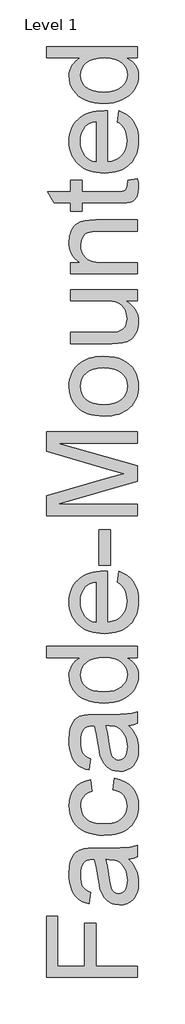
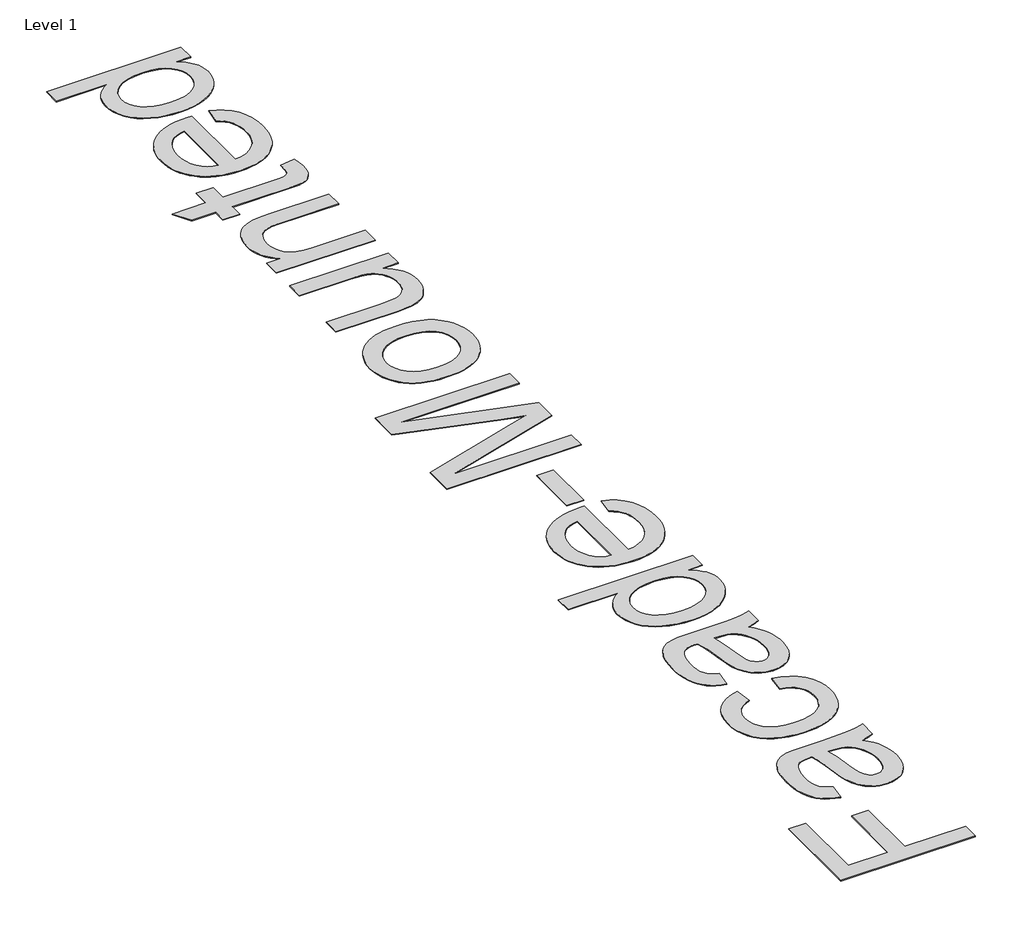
# One storey, part 10 of 69: 1 proxy.
"""IFC4 building model written with IfcOpenShell, lengths in millimetres."""

from ifc_helpers import new_model, si_unit, origin, origin_with_axes, place, context, project, spatial, polyline, outline, extrude, element, save

model = new_model("IFC4")

# Units and contexts
model_context = context("Model", 3, world=origin())
ifc_project = project(units=[si_unit("LENGTHUNIT", "METRE", prefix="MILLI")], contexts=[model_context])

# Site, building, storey
site = spatial("IfcSite", under=ifc_project)
building = spatial("IfcBuilding", under=site)
storey = spatial("IfcBuildingStorey", under=building, Name="Level 1", Elevation=0.0)

# Proxy
placement = place(None, origin())
element("IfcBuildingElementProxy", 1, Name="1000mm Arial", ObjectType="1000mm Arial", at=placement, inside=storey, context=model_context, shape_type="SweptSolid", body=[
    extrude(outline(polyline([(-28268.5943946, -25723.1471203), (-29273.1574961, -25723.1471203), (-29273.1574961, -25048.2062865), (-29147.5871085, -25048.2062865), (-29147.5871085, -25597.5767326), (-28849.3574377, -25597.5767326), (-28849.3574377, -25126.6877788), (-28723.78705, -25126.6877788), (-28723.78705, -25597.5767326), (-28268.5943946, -25597.5767326), (-28268.5943946, -25723.1471203)])), origin_with_axes(), (0.0, 0.0, 1.0), 5.0),
    extrude(outline(polyline([(-28362.7721854, -24420.3543481), (-28334.8284822, -24450.1297971), (-28311.3300198, -24480.3497701), (-28292.2767981, -24511.0142673), (-28277.6688172, -24542.1232885), (-28266.8316268, -24574.0293874), (-28259.0907764, -24607.0851175), (-28254.4462662, -24641.2904788), (-28252.8980962, -24676.6454714), (-28256.6229014, -24732.5558704), (-28267.797317, -24781.5838105), (-28286.421343, -24823.7292916), (-28312.4949794, -24858.9923137), (-28344.3627572, -24886.8363822), (-28380.3692075, -24906.7250025), (-28420.5143302, -24918.6581748), (-28464.7981254, -24922.6358988), (-28516.8534277, -24916.6271596), (-28541.0876542, -24909.1162355), (-28564.1262641, -24898.6009418), (-28604.5932836, -24870.7951943), (-28636.2311352, -24835.447866), (-28660.1434648, -24793.9078573), (-28677.4339186, -24747.5240691), (-28687.0601642, -24702.3358974), (-28696.3185277, -24638.8762532), (-28716.1841554, -24510.4854369), (-28727.4045563, -24460.913338), (-28739.4833485, -24421.0901121), (-28767.4423801, -24420.3543481), (-28797.8846152, -24422.5156548), (-28823.4830707, -24428.999575), (-28844.2377466, -24439.8061086), (-28860.1486429, -24454.9352556), (-28876.0288823, -24481.0855341), (-28887.3719105, -24512.9379835), (-28894.1777274, -24550.4926039), (-28896.4463331, -24593.7493951), (-28894.9364841, -24633.9711599), (-28890.406937, -24668.5520675), (-28882.8576919, -24697.4921178), (-28872.2887487, -24720.7913108), (-28857.872373, -24739.936503), (-28838.7808303, -24756.4145507), (-28815.0141206, -24770.2254539), (-28786.5722439, -24781.3692127), (-28802.2685423, -24906.9396004), (-28838.4436052, -24897.3823327), (-28870.9398481, -24885.1425921), (-28899.757271, -24870.2203787), (-28924.895874, -24852.6156924), (-28946.8614948, -24831.5697766), (-28966.1599712, -24806.3238747), (-28982.791303, -24776.8779867), (-28996.7554904, -24743.2321125), (-29007.8072787, -24706.0683668), (-29015.7014132, -24666.068864), (-29020.4378939, -24623.2336042), (-29022.0167208, -24577.5625873), (-29016.4371772, -24492.673817), (-29009.4627477, -24456.8283151), (-28999.6985464, -24425.3820687), (-28974.5292866, -24374.6450102), (-28959.8063425, -24355.093615), (-28943.6578558, -24339.4203091), (-28905.4900988, -24316.0598024), (-28858.4318602, -24300.915327), (-28815.0217848, -24296.316802), (-28748.557771, -24294.7839604), (-28592.3305504, -24294.7839604), (-28456.244869, -24293.1898051), (-28374.1765273, -24288.4073391), (-28320.2511581, -24278.9650346), (-28268.5943946, -24263.3913635), (-28268.5943946, -24388.9617512), (-28312.2497247, -24409.0726336), (-28362.7721854, -24420.3543481)]), holes=[polyline([(-28613.9129608, -24420.3543481), (-28593.0050007, -24504.7219523), (-28575.4079786, -24622.9347001), (-28565.7817331, -24688.0804701), (-28555.0518416, -24730.9693793), (-28541.1336394, -24759.0816951), (-28521.942462, -24779.8976847), (-28498.9498373, -24792.7735545), (-28473.6272933, -24797.0655111), (-28454.1142191, -24794.7279276), (-28436.2872708, -24787.7151771), (-28420.1464482, -24776.0272595), (-28405.6917515, -24759.664175), (-28393.7815719, -24738.7792075), (-28385.2743008, -24713.5256414), (-28380.1699381, -24683.9034766), (-28378.4684839, -24649.9127131), (-28380.3462149, -24615.2091782), (-28385.9794079, -24582.4676806), (-28395.368063, -24551.6882204), (-28408.5121801, -24522.8707974), (-28424.3234417, -24496.8738031), (-28441.7135302, -24474.5556287), (-28460.6824456, -24455.9162743), (-28481.2301879, -24440.9557398), (-28499.6242876, -24432.2645277), (-28521.942462, -24426.056519), (-28578.3510346, -24421.0901121), (-28613.9129608, -24420.3543481)])]), origin_with_axes(), (0.0, 0.0, 1.0), 5.0),
    extrude(outline(polyline([(-28535.4314685, -23651.2357235), (-28519.73517, -23525.6653358), (-28460.4831762, -23539.3229549), (-28408.0523277, -23560.675439), (-28362.4426245, -23589.7227882), (-28323.6540666, -23626.4650025), (-28292.6983295, -23669.3539118), (-28270.5870888, -23716.841346), (-28257.3203443, -23768.9273051), (-28252.8980962, -23825.6117892), (-28254.4405181, -23861.7351187), (-28259.0677838, -23896.0381987), (-28266.7798933, -23928.5210292), (-28277.5768467, -23959.1836103), (-28291.4586439, -23988.0259419), (-28308.4252848, -24015.0480241), (-28328.4767696, -24040.2498568), (-28351.6130982, -24063.6314401), (-28377.6311691, -24084.6984325), (-28406.3278808, -24102.9564925), (-28437.7032333, -24118.4056203), (-28471.7572265, -24131.0458157), (-28508.4898605, -24140.8770788), (-28547.9011353, -24147.8994096), (-28634.7596072, -24153.5172742), (-28692.4940878, -24151.1183771), (-28746.5037632, -24143.9216855), (-28796.7886334, -24131.9271997), (-28843.3486984, -24115.1349194), (-28885.2489249, -24093.4298817), (-28921.5542793, -24066.6971234), (-28952.2647616, -24034.9366445), (-28977.380372, -23998.1484449), (-28996.9087746, -23957.995658), (-29010.8576336, -23916.1414169), (-29019.226949, -23872.5857215), (-29022.0167208, -23827.3285719), (-29018.1846167, -23771.6174422), (-29006.6883043, -23721.2252731), (-28987.5277837, -23676.1520645), (-28960.7030549, -23636.3978164), (-28926.8272545, -23602.6369791), (-28886.5135192, -23575.544003), (-28839.761849, -23555.118888), (-28786.5722439, -23541.3616343), (-28770.8759454, -23666.932022), (-28800.2068703, -23676.7345443), (-28825.6597058, -23689.7100488), (-28847.234452, -23705.8585356), (-28864.9311088, -23725.1800045), (-28878.7190194, -23747.1839464), (-28888.567527, -23771.3798518), (-28894.4766316, -23797.7677207), (-28896.4463331, -23826.3475532), (-28892.5682437, -23869.0142004), (-28880.9339756, -23907.49619), (-28861.5435288, -23941.7935218), (-28834.3969032, -23971.906196), (-28798.8656339, -23996.4239981), (-28754.3212556, -24013.9367139), (-28700.7637685, -24024.4443434), (-28638.1931725, -24027.9468866), (-28574.6798788, -24024.5209855), (-28520.5015908, -24014.2432822), (-28475.6583085, -23997.1137768), (-28440.1500317, -23973.1324693), (-28413.1643545, -23943.6176034), (-28393.8888708, -23909.8874229), (-28382.3235806, -23871.941928), (-28378.4684839, -23829.7811185), (-28380.8750453, -23795.8056834), (-28388.0947294, -23764.7579758), (-28400.1275363, -23736.6379958), (-28416.973466, -23711.4457434), (-28438.8164595, -23689.8863256), (-28465.8404577, -23672.6648497), (-28498.0454607, -23659.7813157), (-28535.4314685, -23651.2357235)])), origin_with_axes(), (0.0, 0.0, 1.0), 5.0),
    extrude(outline(polyline([(-28362.7721854, -22944.9022928), (-28334.8284822, -22974.6777417), (-28311.3300198, -23004.8977148), (-28292.2767981, -23035.5622119), (-28277.6688172, -23066.6712332), (-28266.8316268, -23098.577332), (-28259.0907764, -23131.6330621), (-28254.4462662, -23165.8384235), (-28252.8980962, -23201.1934161), (-28256.6229014, -23257.1038151), (-28267.797317, -23306.1317552), (-28286.421343, -23348.2772363), (-28312.4949794, -23383.5402583), (-28344.3627572, -23411.3843268), (-28380.3692075, -23431.2729472), (-28420.5143302, -23443.2061194), (-28464.7981254, -23447.1838435), (-28516.8534277, -23441.1751042), (-28541.0876542, -23433.6641802), (-28564.1262641, -23423.1488865), (-28604.5932836, -23395.343139), (-28636.2311352, -23359.9958106), (-28660.1434648, -23318.455802), (-28677.4339186, -23272.0720138), (-28687.0601642, -23226.8838421), (-28696.3185277, -23163.4241979), (-28716.1841554, -23035.0333816), (-28727.4045563, -22985.4612827), (-28739.4833485, -22945.6380567), (-28767.4423801, -22944.9022928), (-28797.8846152, -22947.0635995), (-28823.4830707, -22953.5475196), (-28844.2377466, -22964.3540532), (-28860.1486429, -22979.4832003), (-28876.0288823, -23005.6334788), (-28887.3719105, -23037.4859282), (-28894.1777274, -23075.0405485), (-28896.4463331, -23118.2973398), (-28894.9364841, -23158.5191046), (-28890.406937, -23193.1000122), (-28882.8576919, -23222.0400625), (-28872.2887487, -23245.3392555), (-28857.872373, -23264.4844476), (-28838.7808303, -23280.9624953), (-28815.0141206, -23294.7733986), (-28786.5722439, -23305.9171574), (-28802.2685423, -23431.487545), (-28838.4436052, -23421.9302774), (-28870.9398481, -23409.6905368), (-28899.757271, -23394.7683234), (-28924.895874, -23377.1636371), (-28946.8614948, -23356.1177213), (-28966.1599712, -23330.8718194), (-28982.791303, -23301.4259313), (-28996.7554904, -23267.7800572), (-29007.8072787, -23230.6163115), (-29015.7014132, -23190.6168087), (-29020.4378939, -23147.7815489), (-29022.0167208, -23102.110532), (-29016.4371772, -23017.2217616), (-29009.4627477, -22981.3762597), (-28999.6985464, -22949.9300134), (-28974.5292866, -22899.1929549), (-28959.8063425, -22879.6415597), (-28943.6578558, -22863.9682538), (-28905.4900988, -22840.6077471), (-28858.4318602, -22825.4632717), (-28815.0217848, -22820.8647467), (-28748.557771, -22819.3319051), (-28592.3305504, -22819.3319051), (-28456.244869, -22817.7377498), (-28374.1765273, -22812.9552838), (-28320.2511581, -22803.5129793), (-28268.5943946, -22787.9393081), (-28268.5943946, -22913.5096958), (-28312.2497247, -22933.6205782), (-28362.7721854, -22944.9022928)]), holes=[polyline([(-28613.9129608, -22944.9022928), (-28593.0050007, -23029.269897), (-28575.4079786, -23147.4826448), (-28565.7817331, -23212.6284147), (-28555.0518416, -23255.517324), (-28541.1336394, -23283.6296398), (-28521.942462, -23304.4456294), (-28498.9498373, -23317.3214992), (-28473.6272933, -23321.6134558), (-28454.1142191, -23319.2758723), (-28436.2872708, -23312.2631218), (-28420.1464482, -23300.5752042), (-28405.6917515, -23284.2121196), (-28393.7815719, -23263.3271522), (-28385.2743008, -23238.0735861), (-28380.1699381, -23208.4514213), (-28378.4684839, -23174.4606577), (-28380.3462149, -23139.7571229), (-28385.9794079, -23107.0156253), (-28395.368063, -23076.236165), (-28408.5121801, -23047.4187421), (-28424.3234417, -23021.4217478), (-28441.7135302, -22999.1035734), (-28460.6824456, -22980.464219), (-28481.2301879, -22965.5036845), (-28499.6242876, -22956.8124723), (-28521.942462, -22950.6044637), (-28578.3510346, -22945.6380567), (-28613.9129608, -22944.9022928)])]), origin_with_axes(), (0.0, 0.0, 1.0), 5.0),
    extrude(outline(polyline([(-28268.5943946, -22191.4799666), (-28387.0523971, -22191.4799666), (-28355.6099828, -22209.272426), (-28328.3598904, -22229.0499154), (-28305.30212, -22250.8124347), (-28286.4366714, -22274.5599839), (-28271.7635448, -22300.292563), (-28261.28274, -22328.0101721), (-28254.9942571, -22357.7128111), (-28252.8980962, -22389.40048), (-28255.9331226, -22430.8485182), (-28265.038202, -22470.5797736), (-28280.2133343, -22508.5942465), (-28301.4585195, -22544.8919367), (-28328.1376284, -22578.3385414), (-28359.6145316, -22607.7997578), (-28395.8892292, -22633.275586), (-28436.9617211, -22654.7660259), (-28482.0502581, -22671.8265534), (-28530.373091, -22684.0126445), (-28581.9302198, -22691.3242992), (-28636.7216445, -22693.7615174), (-28690.5090579, -22691.5159044), (-28741.7519541, -22684.7790653), (-28790.4503332, -22673.5510003), (-28836.6041952, -22657.8317092), (-28878.8646394, -22637.6288563), (-28915.8827652, -22612.9501058), (-28947.6585725, -22583.7954577), (-28974.1920614, -22550.1649119), (-28995.1153499, -22513.2464209), (-29010.0605559, -22474.2279368), (-29019.0276796, -22433.1094596), (-29022.0167208, -22389.8909894), (-29019.8784067, -22358.2837946), (-29013.4634644, -22328.4546962), (-29002.7718939, -22300.403694), (-28987.8036952, -22274.1307882), (-28969.4172597, -22249.9272186), (-28948.4709786, -22228.0842252), (-28924.9648519, -22208.6018078), (-28898.8988797, -22191.4799666), (-29273.1574961, -22191.4799666), (-29273.1574961, -22065.9095789), (-28268.5943946, -22065.9095789), (-28268.5943946, -22191.4799666)]), holes=[polyline([(-28637.2121538, -22568.1911297), (-28576.3200194, -22564.6502655), (-28523.6285878, -22554.0276729), (-28479.137859, -22536.3233519), (-28442.847833, -22511.5373024), (-28414.6818678, -22481.9381302), (-28394.5633212, -22449.7944409), (-28382.4921932, -22415.1062345), (-28378.4684839, -22377.8735109), (-28382.3082522, -22340.4645105), (-28393.8275572, -22305.9832376), (-28413.0263988, -22274.4296923), (-28439.9047771, -22245.8038746), (-28474.6772898, -22222.0371649), (-28517.5585349, -22205.0609436), (-28568.5485123, -22194.8752109), (-28627.6472219, -22191.4799666), (-28692.4404383, -22194.9365245), (-28748.005948, -22205.3061983), (-28794.343751, -22222.5889878), (-28831.4538473, -22246.7848932), (-28859.8880598, -22276.0391761), (-28880.1982116, -22308.4970979), (-28892.3843027, -22344.1586588), (-28896.4463331, -22383.0238588), (-28892.5452511, -22420.9923464), (-28880.8420051, -22455.6805528), (-28861.3365952, -22487.0884782), (-28834.0290212, -22515.2161224), (-28798.3214751, -22538.3926881), (-28753.6161485, -22554.9473779), (-28699.9130414, -22564.8801917), (-28637.2121538, -22568.1911297)])]), origin_with_axes(), (0.0, 0.0, 1.0), 5.0),
    extrude(outline(polyline([(-28488.3425731, -21361.0476762), (-28472.6462746, -21237.9298351), (-28423.3347589, -21256.80678), (-28379.8786982, -21282.2902724), (-28342.2780926, -21314.3803123), (-28310.5329421, -21353.0768996), (-28285.317697, -21397.9814957), (-28267.3068077, -21448.6955615), (-28256.5002741, -21505.2190973), (-28252.8980962, -21567.5521028), (-28254.4520144, -21607.5707661), (-28259.1137691, -21645.4664437), (-28266.8833602, -21681.2391356), (-28277.7607877, -21714.8888419), (-28291.7460517, -21746.4155624), (-28308.8391521, -21775.8192973), (-28329.0400889, -21803.1000465), (-28352.3488622, -21828.2578101), (-28378.4627357, -21850.8480638), (-28407.0789732, -21870.4262838), (-28438.1975747, -21886.9924699), (-28471.8185401, -21900.5466221), (-28507.9418696, -21911.0887405), (-28546.567563, -21918.6188251), (-28587.6956205, -21923.1368759), (-28631.3260419, -21924.6428928), (-28676.4414037, -21923.1215475), (-28718.9585988, -21918.5575115), (-28758.8776274, -21910.9507848), (-28796.1984894, -21900.3013675), (-28830.9211848, -21886.6092594), (-28863.0457136, -21869.8744608), (-28892.5720758, -21850.0969714), (-28919.5002714, -21827.2767914), (-28943.5275643, -21802.0308895), (-28964.351218, -21774.9762344), (-28981.9712328, -21746.1128262), (-28996.3876084, -21715.4406649), (-29007.6003451, -21682.9597504), (-29015.6094427, -21648.6700827), (-29020.4149012, -21612.571662), (-29022.0167208, -21574.6644881), (-29020.4187334, -21537.9969998), (-29015.6247711, -21503.0424621), (-29007.634834, -21469.800875), (-28996.4489221, -21438.2722383), (-28982.0670354, -21408.4565523), (-28964.4891738, -21380.3538167), (-28943.7153374, -21353.9640317), (-28919.7455261, -21329.2871973), (-28892.8786441, -21306.9556105), (-28863.4135956, -21287.6015687), (-28831.3503805, -21271.2250717), (-28796.6889987, -21257.8261197), (-28759.4294504, -21247.4047126), (-28719.5717355, -21239.9608503), (-28632.0618059, -21234.0057605), (-28598.2166623, -21234.7415245), (-28598.2166623, -21799.0725051), (-28548.1080689, -21791.7991715), (-28504.2228126, -21777.3368106), (-28466.5608933, -21755.6854223), (-28435.1223111, -21726.8450067), (-28410.3362617, -21692.4097191), (-28392.6319407, -21653.9737148), (-28382.0093481, -21611.5369939), (-28378.4684839, -21565.0995562), (-28380.1086244, -21530.3653645), (-28385.0290461, -21498.2676604), (-28393.2297489, -21468.8064439), (-28404.7107329, -21441.9817151), (-28419.7785662, -21417.7934739), (-28438.7398174, -21396.2417204), (-28461.5944864, -21377.3264545), (-28488.3425731, -21361.0476762)]), holes=[polyline([(-28723.78705, -21799.0725051), (-28723.78705, -21359.5761482), (-28759.3183194, -21366.0294115), (-28790.1284365, -21376.5600337), (-28816.2174013, -21391.1680145), (-28837.5852139, -21409.8533542), (-28863.3369535, -21444.0970366), (-28881.7310533, -21483.0618713), (-28892.7675131, -21526.7478582), (-28896.4463331, -21575.1549974), (-28893.5109413, -21619.308501), (-28884.7047661, -21659.7985131), (-28870.0278073, -21696.6250337), (-28849.480065, -21729.7880627), (-28824.0119011, -21757.6168028), (-28794.5736773, -21778.4404565), (-28761.1653936, -21792.259024), (-28723.78705, -21799.0725051)])]), origin_with_axes(), (0.0, 0.0, 1.0), 5.0),
    extrude(outline(polyline([(-28566.8240654, -21171.2205667), (-28692.3944531, -21171.2205667), (-28692.3944531, -20778.8131052), (-28566.8240654, -20778.8131052), (-28566.8240654, -21171.2205667)])), origin_with_axes(), (0.0, 0.0, 1.0), 5.0),
    extrude(outline(polyline([(-28268.5943946, -20621.8501205), (-29273.1574961, -20621.8501205), (-29273.1574961, -20405.780762), (-28565.1072828, -20200.2573541), (-28417.2187207, -20158.8093159), (-28577.3700159, -20113.9277125), (-29273.1574961, -19911.8378699), (-29273.1574961, -19695.7685114), (-28268.5943946, -19695.7685114), (-28268.5943946, -19821.338899), (-29147.5871085, -19821.338899), (-28268.5943946, -20073.7059477), (-28268.5943946, -20243.9126842), (-29147.5871085, -20496.2797329), (-28268.5943946, -20496.2797329), (-28268.5943946, -20621.8501205)])), origin_with_axes(), (0.0, 0.0, 1.0), 5.0),
    extrude(outline(polyline([(-28637.4574085, -19523.1092283), (-28686.8800553, -19521.4116062), (-28732.9994283, -19516.3187398), (-28775.8155276, -19507.8306292), (-28815.3283531, -19495.9472743), (-28851.5379049, -19480.6686752), (-28884.444183, -19461.9948318), (-28914.0471873, -19439.9257442), (-28940.3469178, -19414.4614124), (-28976.0774566, -19366.6060962), (-29001.59927, -19313.784373), (-29016.9123581, -19255.996243), (-29022.0167208, -19193.2417059), (-29020.4628025, -19157.7736663), (-29015.8010479, -19123.9649277), (-29008.0314568, -19091.8154902), (-28997.1540293, -19061.3253538), (-28983.1687653, -19032.4945185), (-28966.0756649, -19005.3229843), (-28945.874728, -18979.8107511), (-28922.5659547, -18955.9578191), (-28896.517227, -18934.3734926), (-28868.0964268, -18915.6670764), (-28837.3035542, -18899.8385703), (-28804.1386091, -18886.8879745), (-28768.6015916, -18876.8152888), (-28730.6925016, -18869.6205133), (-28647.7581043, -18863.8646929), (-28580.5429981, -18866.4092101), (-28520.9001297, -18874.0427615), (-28468.8294989, -18886.7653471), (-28424.3311059, -18904.5769671), (-28385.8951017, -18927.2553592), (-28352.0116371, -18954.5782616), (-28322.6807121, -18986.5456741), (-28297.9023269, -19023.1575968), (-28278.212976, -19062.988487), (-28264.1491539, -19104.6128019), (-28255.7108606, -19148.0305416), (-28252.8980962, -19193.2417059), (-28254.4462662, -19229.2692328), (-28259.0907764, -19263.5301596), (-28266.8316268, -19296.0244865), (-28277.6688172, -19326.7522134), (-28291.6023478, -19355.7133402), (-28308.6322185, -19382.9078671), (-28328.7584293, -19408.3357939), (-28351.9809802, -19431.9971208), (-28378.1159303, -19453.351521), (-28406.9793385, -19471.8586678), (-28438.5712048, -19487.5185613), (-28472.8915293, -19500.3312014), (-28509.9403119, -19510.2965882), (-28549.7175526, -19517.4147216), (-28637.4574085, -19523.1092283)]), holes=[polyline([(-28637.7026631, -19397.5388406), (-28576.7952003, -19393.9060059), (-28524.0577835, -19383.0075018), (-28479.4904126, -19364.8433283), (-28443.0930877, -19339.4134854), (-28414.8198235, -19308.4807409), (-28394.6246348, -19273.8078629), (-28382.5075216, -19235.3948512), (-28378.4684839, -19193.2417059), (-28382.5305142, -19151.3031585), (-28394.7166053, -19113.043431), (-28415.0267571, -19078.4625234), (-28443.4609697, -19047.5604359), (-28480.2185124, -19022.1305929), (-28525.4986546, -19003.9664194), (-28579.3013964, -18993.0679153), (-28641.6267378, -18989.4350806), (-28700.6028201, -18993.0909079), (-28751.9606795, -19004.0583899), (-28795.7003159, -19022.3375266), (-28831.8217293, -19047.9283178), (-28860.0949934, -19078.9453686), (-28880.2901821, -19113.5032835), (-28892.4072953, -19151.6020626), (-28896.4463331, -19193.2417059), (-28892.4226238, -19235.3948512), (-28880.3514958, -19273.8078629), (-28860.2329492, -19308.4807409), (-28832.0669839, -19339.4134854), (-28795.7769579, -19364.8433283), (-28751.2862292, -19383.0075018), (-28698.5947976, -19393.9060059), (-28637.7026631, -19397.5388406)])]), origin_with_axes(), (0.0, 0.0, 1.0), 5.0),
    extrude(outline(polyline([(-28268.5943946, -18251.709053), (-28395.3910557, -18251.709053), (-28361.9942683, -18273.4907328), (-28333.0503859, -18297.1424794), (-28308.5594085, -18322.6642928), (-28288.5213361, -18350.056173), (-28272.9361686, -18379.31812), (-28261.8039062, -18410.4501339), (-28255.1245487, -18443.4522145), (-28252.8980962, -18478.324362), (-28254.4615947, -18509.4333832), (-28259.1520901, -18539.4847437), (-28266.9695825, -18568.4784434), (-28277.9140719, -18596.4144824), (-28306.1183582, -18644.1778281), (-28322.6117343, -18662.7711973), (-28340.6992657, -18677.8390307), (-28382.6991268, -18700.4944302), (-28433.1602738, -18715.2403669), (-28480.7396785, -18720.7585968), (-28549.9014936, -18722.5980068), (-29006.3204223, -18722.5980068), (-29006.3204223, -18597.0276191), (-28609.0078675, -18597.0276191), (-28529.5453566, -18595.1268955), (-28480.9849332, -18589.4247245), (-28458.3525263, -18581.9061362), (-28438.2799649, -18571.1225953), (-28420.7672491, -18557.0741016), (-28405.8143788, -18539.7606552), (-28393.8505498, -18519.7034222), (-28385.3049576, -18497.4235689), (-28380.1776023, -18472.9210952), (-28378.4684839, -18446.1960011), (-28380.2159233, -18418.6738293), (-28385.4582418, -18392.0253773), (-28394.1954392, -18366.250645), (-28406.4275155, -18341.3496324), (-28421.6716257, -18318.6712403), (-28439.4449246, -18299.5643692), (-28459.7474122, -18284.0290191), (-28482.5790885, -18272.06519), (-28509.3961531, -18263.1593801), (-28541.6548056, -18256.7980872), (-28622.496874, -18251.709053), (-29006.3204223, -18251.709053), (-29006.3204223, -18126.1386653), (-28268.5943946, -18126.1386653), (-28268.5943946, -18251.709053)])), origin_with_axes(), (0.0, 0.0, 1.0), 5.0),
    extrude(outline(polyline([(-28268.5943946, -17953.4793822), (-29006.3204223, -17953.4793822), (-29006.3204223, -17827.9089945), (-28903.3134637, -17827.9089945), (-28931.1345395, -17807.1926397), (-28955.2461386, -17784.2843212), (-28975.648261, -17759.1840393), (-28992.3409065, -17731.8917938), (-29005.3240752, -17702.4075847), (-29014.5977672, -17670.7314121), (-29020.1619824, -17636.8632759), (-29022.0167208, -17600.8031762), (-29016.0386383, -17538.9070305), (-29008.5660353, -17509.9133307), (-28998.1043911, -17482.2225464), (-28985.2131928, -17456.884674), (-28970.4519278, -17434.94971), (-28953.8205959, -17416.4176545), (-28935.3191972, -17401.2885074), (-28892.79817, -17378.4491669), (-28842.9808164, -17363.6419166), (-28795.3400981, -17358.6755097), (-28721.579758, -17357.0200407), (-28268.5943946, -17357.0200407), (-28268.5943946, -17482.5904284), (-28704.6571863, -17482.5904284), (-28769.5883584, -17486.2079347), (-28815.7575488, -17497.0604535), (-28833.2242794, -17505.6826878), (-28848.8362715, -17517.0793654), (-28862.5935253, -17531.2504864), (-28874.4960407, -17548.1960508), (-28890.95876, -17588.0805905), (-28896.4463331, -17634.403065), (-28893.3653214, -17672.532501), (-28884.1222862, -17707.9488072), (-28868.7172277, -17740.6519838), (-28847.1501457, -17770.6420306), (-28816.9684937, -17795.6963273), (-28775.719725, -17813.5922535), (-28723.4038396, -17824.3298093), (-28660.0208375, -17827.9089945), (-28268.5943946, -17827.9089945), (-28268.5943946, -17953.4793822)])), origin_with_axes(), (0.0, 0.0, 1.0), 5.0),
    extrude(outline(polyline([(-28373.3181359, -16917.5236838), (-28264.9155747, -16901.8273853), (-28255.9024658, -16951.5527683), (-28252.8980962, -16995.7599214), (-28258.1097578, -17056.031255), (-28264.6243348, -17080.4187656), (-28273.7447426, -17100.974172), (-28297.8410133, -17132.734651), (-28312.3263668, -17144.476218), (-28328.4365325, -17153.45867), (-28350.0342713, -17160.1112028), (-28380.9823442, -17164.8630119), (-28470.929492, -17168.6644592), (-28880.7500346, -17168.6644592), (-28880.7500346, -17262.8422499), (-29006.3204223, -17262.8422499), (-29006.3204223, -17168.6644592), (-29185.6015813, -17168.6644592), (-29259.423235, -17043.0940715), (-29006.3204223, -17043.0940715), (-29006.3204223, -16917.5236838), (-28880.7500346, -16917.5236838), (-28880.7500346, -17043.0940715), (-28474.6083119, -17043.0940715), (-28433.2829012, -17041.4386025), (-28409.8610808, -17036.4721956), (-28396.8932405, -17027.7963118), (-28386.9297698, -17015.0124125), (-28380.5838053, -16996.8942242), (-28378.4684839, -16972.2154737), (-28373.3181359, -16917.5236838)])), origin_with_axes(), (0.0, 0.0, 1.0), 5.0),
    extrude(outline(polyline([(-28488.3425731, -16275.4469749), (-28472.6462746, -16152.3291338), (-28423.3347589, -16171.2060787), (-28379.8786982, -16196.6895711), (-28342.2780926, -16228.7796109), (-28310.5329421, -16267.4761983), (-28285.317697, -16312.3807943), (-28267.3068077, -16363.0948602), (-28256.5002741, -16419.6183959), (-28252.8980962, -16481.9514015), (-28254.4520144, -16521.9700648), (-28259.1137691, -16559.8657424), (-28266.8833602, -16595.6384343), (-28277.7607877, -16629.2881406), (-28291.7460517, -16660.8148611), (-28308.8391521, -16690.218596), (-28329.0400889, -16717.4993452), (-28352.3488622, -16742.6571087), (-28378.4627357, -16765.2473625), (-28407.0789732, -16784.8255824), (-28438.1975747, -16801.3917685), (-28471.8185401, -16814.9459208), (-28507.9418696, -16825.4880392), (-28546.567563, -16833.0181238), (-28587.6956205, -16837.5361746), (-28631.3260419, -16839.0421915), (-28676.4414037, -16837.5208461), (-28718.9585988, -16832.9568101), (-28758.8776274, -16825.3500835), (-28796.1984894, -16814.7006661), (-28830.9211848, -16801.0085581), (-28863.0457136, -16784.2737594), (-28892.5720758, -16764.4962701), (-28919.5002714, -16741.6760901), (-28943.5275643, -16716.4301882), (-28964.351218, -16689.3755331), (-28981.9712328, -16660.5121249), (-28996.3876084, -16629.8399635), (-29007.6003451, -16597.3590491), (-29015.6094427, -16563.0693814), (-29020.4149012, -16526.9709606), (-29022.0167208, -16489.0637867), (-29020.4187334, -16452.3962985), (-29015.6247711, -16417.4417608), (-29007.634834, -16384.2001736), (-28996.4489221, -16352.671537), (-28982.0670354, -16322.8558509), (-28964.4891738, -16294.7531154), (-28943.7153374, -16268.3633304), (-28919.7455261, -16243.6864959), (-28892.8786441, -16221.3549092), (-28863.4135956, -16202.0008674), (-28831.3503805, -16185.6243704), (-28796.6889987, -16172.2254184), (-28759.4294504, -16161.8040112), (-28719.5717355, -16154.360149), (-28632.0618059, -16148.4050592), (-28598.2166623, -16149.1408232), (-28598.2166623, -16713.4718038), (-28548.1080689, -16706.1984702), (-28504.2228126, -16691.7361092), (-28466.5608933, -16670.084721), (-28435.1223111, -16641.2443054), (-28410.3362617, -16606.8090178), (-28392.6319407, -16568.3730135), (-28382.0093481, -16525.9362925), (-28378.4684839, -16479.4988549), (-28380.1086244, -16444.7646631), (-28385.0290461, -16412.6669591), (-28393.2297489, -16383.2057426), (-28404.7107329, -16356.3810138), (-28419.7785662, -16332.1927726), (-28438.7398174, -16310.6410191), (-28461.5944864, -16291.7257531), (-28488.3425731, -16275.4469749)]), holes=[polyline([(-28723.78705, -16713.4718038), (-28723.78705, -16273.9754469), (-28759.3183194, -16280.4287102), (-28790.1284365, -16290.9593323), (-28816.2174013, -16305.5673132), (-28837.5852139, -16324.2526529), (-28863.3369535, -16358.4963353), (-28881.7310533, -16397.4611699), (-28892.7675131, -16441.1471569), (-28896.4463331, -16489.5542961), (-28893.5109413, -16533.7077997), (-28884.7047661, -16574.1978118), (-28870.0278073, -16611.0243323), (-28849.480065, -16644.1873614), (-28824.0119011, -16672.0161015), (-28794.5736773, -16692.8397552), (-28761.1653936, -16706.6583227), (-28723.78705, -16713.4718038)])]), origin_with_axes(), (0.0, 0.0, 1.0), 5.0),
    extrude(outline(polyline([(-28268.5943946, -15567.6420161), (-28387.0523971, -15567.6420161), (-28355.6099828, -15585.4344756), (-28328.3598904, -15605.2119649), (-28305.30212, -15626.9744842), (-28286.4366714, -15650.7220334), (-28271.7635448, -15676.4546125), (-28261.28274, -15704.1722216), (-28254.9942571, -15733.8748606), (-28252.8980962, -15765.5625295), (-28255.9331226, -15807.0105677), (-28265.038202, -15846.7418232), (-28280.2133343, -15884.756296), (-28301.4585195, -15921.0539862), (-28328.1376284, -15954.5005909), (-28359.6145316, -15983.9618074), (-28395.8892292, -16009.4376355), (-28436.9617211, -16030.9280754), (-28482.0502581, -16047.9886029), (-28530.373091, -16060.174694), (-28581.9302198, -16067.4863487), (-28636.7216445, -16069.9235669), (-28690.5090579, -16067.6779539), (-28741.7519541, -16060.9411148), (-28790.4503332, -16049.7130498), (-28836.6041952, -16033.9937587), (-28878.8646394, -16013.7909058), (-28915.8827652, -15989.1121553), (-28947.6585725, -15959.9575072), (-28974.1920614, -15926.3269614), (-28995.1153499, -15889.4084704), (-29010.0605559, -15850.3899863), (-29019.0276796, -15809.2715091), (-29022.0167208, -15766.0530389), (-29019.8784067, -15734.4458441), (-29013.4634644, -15704.6167457), (-29002.7718939, -15676.5657435), (-28987.8036952, -15650.2928377), (-28969.4172597, -15626.0892681), (-28948.4709786, -15604.2462747), (-28924.9648519, -15584.7638573), (-28898.8988797, -15567.6420161), (-29273.1574961, -15567.6420161), (-29273.1574961, -15442.0716285), (-28268.5943946, -15442.0716285), (-28268.5943946, -15567.6420161)]), holes=[polyline([(-28637.2121538, -15944.3531792), (-28576.3200194, -15940.812315), (-28523.6285878, -15930.1897224), (-28479.137859, -15912.4854014), (-28442.847833, -15887.6993519), (-28414.6818678, -15858.1001798), (-28394.5633212, -15825.9564904), (-28382.4921932, -15791.268284), (-28378.4684839, -15754.0355604), (-28382.3082522, -15716.62656), (-28393.8275572, -15682.1452871), (-28413.0263988, -15650.5917418), (-28439.9047771, -15621.9659241), (-28474.6772898, -15598.1992144), (-28517.5585349, -15581.2229931), (-28568.5485123, -15571.0372604), (-28627.6472219, -15567.6420161), (-28692.4404383, -15571.0985741), (-28748.005948, -15581.4682478), (-28794.343751, -15598.7510374), (-28831.4538473, -15622.9469428), (-28859.8880598, -15652.2012256), (-28880.1982116, -15684.6591474), (-28892.3843027, -15720.3207083), (-28896.4463331, -15759.1859083), (-28892.5452511, -15797.1543959), (-28880.8420051, -15831.8426023), (-28861.3365952, -15863.2505277), (-28834.0290212, -15891.3781719), (-28798.3214751, -15914.5547376), (-28753.6161485, -15931.1094274), (-28699.9130414, -15941.0422412), (-28637.2121538, -15944.3531792)])]), origin_with_axes(), (0.0, 0.0, 1.0), 5.0),
])

save(model, "model.ifc")
